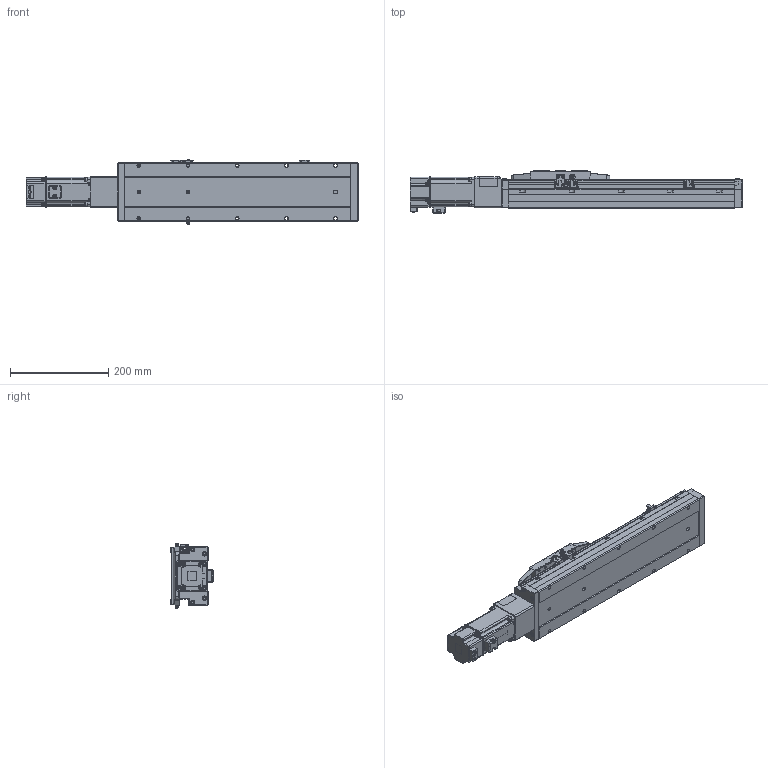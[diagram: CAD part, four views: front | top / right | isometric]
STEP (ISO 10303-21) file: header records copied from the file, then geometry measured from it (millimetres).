
FILE_DESCRIPTION (( 'STEP AP214' ), '1' );
FILE_NAME ('CTH12-L10-S250-BC-C40（简）.STEP', '2023-02-06T05:33:11', ( '' ), ( '' ), 'SwSTEP 2.0', 'SolidWorks 2018', '' );
FILE_SCHEMA (( 'AUTOMOTIVE_DESIGN' ));
Length unit declared in the file: millimetre
Products named in the file (23): hex nuts, style 1-grades ab gb_GB_FASTENER_NUT_SNAB1 M3-N; 内六角圆柱头螺钉M3-1; PM-Y45; CTH12覜茼え; CTH12賑怢ㄗ潠ㄘ; CTH嫖萇羲壽假蚾啣; 内六角圆柱头螺钉M3-2; CTH12-BL_body_4; CTH12; 湮賑怢  裔赽-1(CTH12)賑怢; CTH12-L10-S250-BC-C40（简）; 蚐郲; M5蹟隊; 400W萇儂; CTH12賑怢郪磁; 内六角圆柱头螺钉M3; 嫖萇羲壽郪磁1333; CTH12_body_3; CTH12底座-L461简（250行程）; 嫖萇羲壽郪磁2; CTH12萇儂釱; CTH12-BC-03_1; CTH12-BC-06-T40（cth8-bc-06-t40-G）_1
Assembly tree (43 placements, depth 4):
  CTH12-L10-S250-BC-C40（简）
    CTH12底座-L461简（250行程）
    蚐郲  x2
    CTH12-BL_body_4
    CTH12_body_3
    CTH12賑怢郪磁
      CTH12
        湮賑怢  裔赽-1(CTH12)賑怢
        CTH12賑怢ㄗ潠ㄘ
    CTH12覜茼え
    嫖萇羲壽郪磁2
      CTH嫖萇羲壽假蚾啣
      PM-Y45
      内六角圆柱头螺钉M3-1  x2
      内六角圆柱头螺钉M3-2  x2
      hex nuts, style 1-grades ab gb_GB_FASTENER_NUT_SNAB1 M3-N  x2
    CTH12萇儂釱
      CTH12-BC-03_1
      CTH12-BC-06-T40（cth8-bc-06-t40-G）_1
    嫖萇羲壽郪磁1333  x2
      CTH嫖萇羲壽假蚾啣
      PM-Y45
      内六角圆柱头螺钉M3-2
      内六角圆柱头螺钉M3-1
      hex nuts, style 1-grades ab gb_GB_FASTENER_NUT_SNAB1 M3-N
    内六角圆柱头螺钉M3  x6
    400W萇儂
    M5蹟隊  x4
Bounding box: 675.8 x 86.5 x 131.52 mm (x, y, z)
Volume: 3631486.9 mm3; surface area: 457215.3 mm2
Topology: 45 solids, 47 shells, 2759 faces, 6825 edges, 4291 vertices
Faces by surface type: plane 1376, cylinder 842, cone 287, bspline 126, torus 124, sphere 4
Entity records: 84760 total; most frequent: CARTESIAN_POINT 29078, ORIENTED_EDGE 10752, DIRECTION 10471, EDGE_CURVE 5376, AXIS2_PLACEMENT_3D 3669, VERTEX_POINT 3395, VECTOR 3133, LINE 3133
